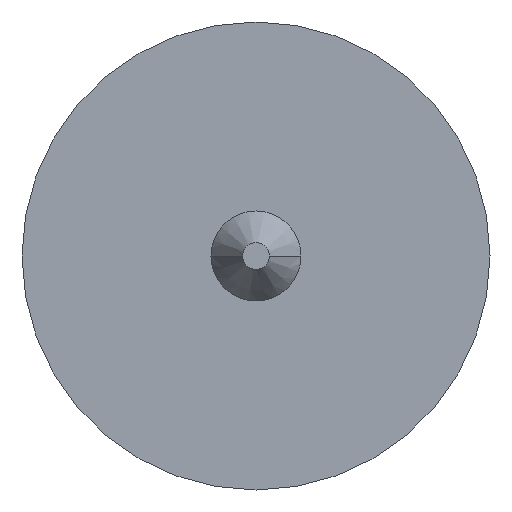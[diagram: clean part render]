
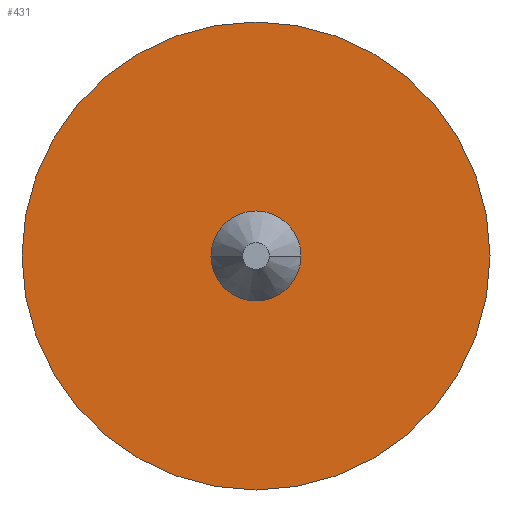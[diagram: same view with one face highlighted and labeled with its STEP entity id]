
A CAD part, front view. The second image highlights one B-rep face of the part: STEP entity #431.
In plain terms, the highlighted planar face has unit normal (0, -1, 0).
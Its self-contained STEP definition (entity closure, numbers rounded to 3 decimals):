
#8 = FACE_BOUND ( 'NONE', #282, .T. ) ;
#9 = PLANE ( 'NONE',  #214 ) ;
#11 = CARTESIAN_POINT ( 'NONE',  ( 59.987, -30., 0. ) ) ;
#12 = DIRECTION ( 'NONE',  ( 0., 1., 0. ) ) ;
#13 = DIRECTION ( 'NONE',  ( -1., 0., 0. ) ) ;
#88 = CARTESIAN_POINT ( 'NONE',  ( -25., -30., 0. ) ) ;
#90 = CARTESIAN_POINT ( 'NONE',  ( -130., -30., 0. ) ) ;
#92 = CARTESIAN_POINT ( 'NONE',  ( 130., -30., 0. ) ) ;
#105 = CARTESIAN_POINT ( 'NONE',  ( 0., -30., 0. ) ) ;
#106 = DIRECTION ( 'NONE',  ( 0., 1., 0. ) ) ;
#107 = DIRECTION ( 'NONE',  ( -1., 0., 0. ) ) ;
#109 = CARTESIAN_POINT ( 'NONE',  ( 0., -30., 0. ) ) ;
#110 = DIRECTION ( 'NONE',  ( 0., 1., 0. ) ) ;
#111 = DIRECTION ( 'NONE',  ( -1., 0., 0. ) ) ;
#138 = FACE_OUTER_BOUND ( 'NONE', #297, .T. ) ;
#166 = AXIS2_PLACEMENT_3D ( 'NONE', #337, #338, #339 ) ;
#168 = CIRCLE ( 'NONE', #166, 25. ) ;
#172 = AXIS2_PLACEMENT_3D ( 'NONE', #326, #327, #328 ) ;
#174 = CIRCLE ( 'NONE', #172, 130. ) ;
#204 = AXIS2_PLACEMENT_3D ( 'NONE', #109, #110, #111 ) ;
#205 = CIRCLE ( 'NONE', #212, 130. ) ;
#210 = CIRCLE ( 'NONE', #204, 25. ) ;
#212 = AXIS2_PLACEMENT_3D ( 'NONE', #105, #106, #107 ) ;
#214 = AXIS2_PLACEMENT_3D ( 'NONE', #11, #12, #13 ) ;
#220 = VERTEX_POINT ( 'NONE', #229 ) ;
#229 = CARTESIAN_POINT ( 'NONE',  ( 25., -30., 0. ) ) ;
#252 = ORIENTED_EDGE ( 'NONE', *, *, #452, .T. ) ;
#253 = ORIENTED_EDGE ( 'NONE', *, *, #422, .T. ) ;
#254 = ORIENTED_EDGE ( 'NONE', *, *, #421, .F. ) ;
#255 = ORIENTED_EDGE ( 'NONE', *, *, #448, .F. ) ;
#282 = EDGE_LOOP ( 'NONE', ( #253, #252 ) ) ;
#289 = VERTEX_POINT ( 'NONE', #88 ) ;
#297 = EDGE_LOOP ( 'NONE', ( #255, #254 ) ) ;
#313 = VERTEX_POINT ( 'NONE', #90 ) ;
#316 = VERTEX_POINT ( 'NONE', #92 ) ;
#326 = CARTESIAN_POINT ( 'NONE',  ( 0., -30., 0. ) ) ;
#327 = DIRECTION ( 'NONE',  ( 0., 1., 0. ) ) ;
#328 = DIRECTION ( 'NONE',  ( -1., 0., 0. ) ) ;
#337 = CARTESIAN_POINT ( 'NONE',  ( 0., -30., 0. ) ) ;
#338 = DIRECTION ( 'NONE',  ( 0., 1., 0. ) ) ;
#339 = DIRECTION ( 'NONE',  ( -1., 0., 0. ) ) ;
#421 = EDGE_CURVE ( 'NONE', #316, #313, #205, .T. ) ;
#422 = EDGE_CURVE ( 'NONE', #289, #220, #210, .T. ) ;
#431 = ADVANCED_FACE ( 'NONE', ( #138, #8 ), #9, .F. ) ;
#448 = EDGE_CURVE ( 'NONE', #313, #316, #174, .T. ) ;
#452 = EDGE_CURVE ( 'NONE', #220, #289, #168, .T. ) ;
